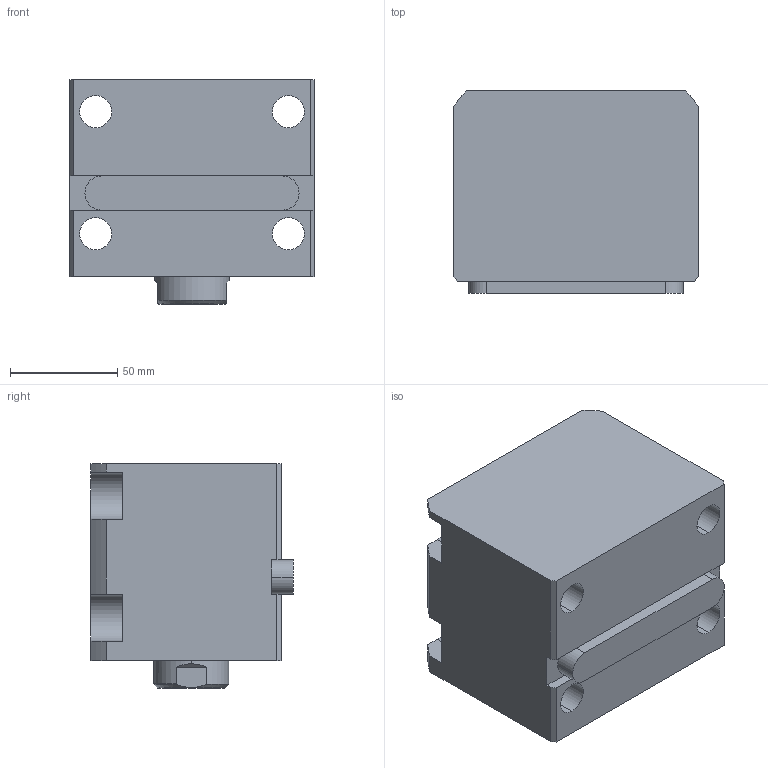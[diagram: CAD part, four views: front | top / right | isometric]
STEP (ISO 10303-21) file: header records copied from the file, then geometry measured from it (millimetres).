
FILE_DESCRIPTION (( 'STEP AP214' ), '1' );
FILE_NAME ('chtb-la63x25n_asm.STEP', '2018-05-02T07:50:20', ( 'Windows' ), ( 'Microsoft' ), 'SwSTEP 2.0', 'SolidWorks 2015', '' );
FILE_SCHEMA (( 'AUTOMOTIVE_DESIGN' ));
Length unit declared in the file: millimetre
Products named in the file (5): CHTB-LA63X25NBT; CHTB-LA63PJ; CHTB63X25NHSG; CHTB-63QG; chtb-la63x25n_asm
Assembly tree (4 placements, depth 2):
  chtb-la63x25n_asm
    CHTB-63QG
    CHTB63X25NHSG
    CHTB-LA63PJ
    CHTB-LA63X25NBT
Bounding box: 114 x 94.5 x 105 mm (x, y, z)
Volume: 803119.9 mm3; surface area: 134578.7 mm2
Topology: 4 solids, 4 shells, 174 faces, 510 edges, 348 vertices
Faces by surface type: cylinder 98, plane 45, bspline 12, cone 12, torus 7
Entity records: 18199 total; most frequent: CARTESIAN_POINT 13678, ORIENTED_EDGE 1008, DIRECTION 778, EDGE_CURVE 504, VERTEX_POINT 348, AXIS2_PLACEMENT_3D 295, EDGE_LOOP 198, LINE 188
